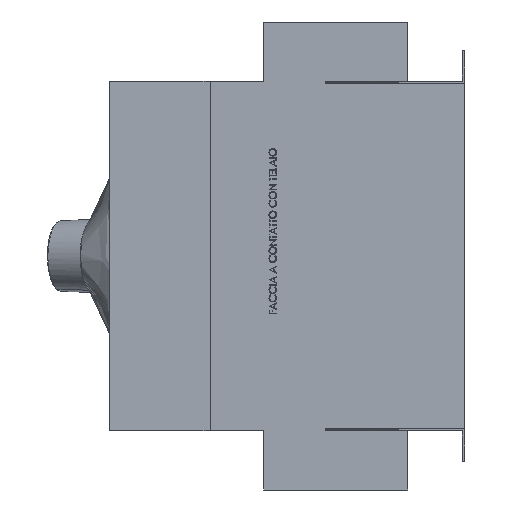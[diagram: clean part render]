
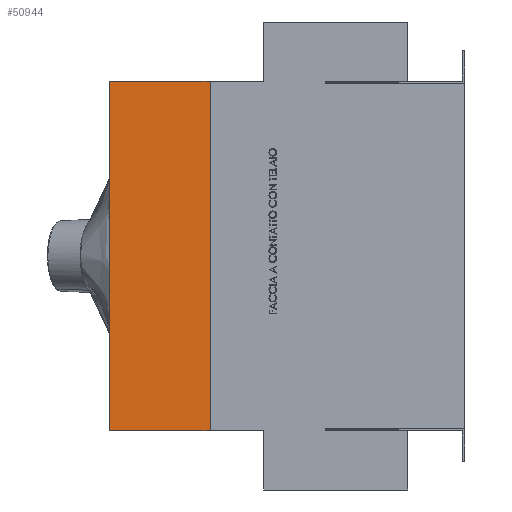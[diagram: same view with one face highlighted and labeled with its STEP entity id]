
A CAD part, left-side view. The second image highlights one B-rep face of the part: STEP entity #50944.
In plain terms, the highlighted planar face has unit normal (-1, 0, 0).
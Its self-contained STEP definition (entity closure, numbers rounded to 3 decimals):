
#1390 = CARTESIAN_POINT ( 'NONE',  ( -120.515, 316.605, 243. ) ) ;
#1688 = LINE ( 'NONE', #21410, #16743 ) ;
#1945 = VECTOR ( 'NONE', #23655, 1000. ) ;
#4144 = DIRECTION ( 'NONE',  ( 0., 1., 0. ) ) ;
#8168 = LINE ( 'NONE', #58612, #57805 ) ;
#10560 = ORIENTED_EDGE ( 'NONE', *, *, #25231, .F. ) ;
#11927 = VERTEX_POINT ( 'NONE', #34171 ) ;
#16743 = VECTOR ( 'NONE', #51020, 1000. ) ;
#17009 = LINE ( 'NONE', #48300, #1945 ) ;
#19096 = PLANE ( 'NONE',  #34509 ) ;
#19318 = CARTESIAN_POINT ( 'NONE',  ( -120.515, 316.605, 937.262 ) ) ;
#21410 = CARTESIAN_POINT ( 'NONE',  ( -120.515, 176.605, 937.262 ) ) ;
#21918 = EDGE_CURVE ( 'NONE', #60916, #52316, #46609, .T. ) ;
#23571 = CARTESIAN_POINT ( 'NONE',  ( -120.515, 316.605, 937.262 ) ) ;
#23655 = DIRECTION ( 'NONE',  ( 0., -1., 0. ) ) ;
#24296 = DIRECTION ( 'NONE',  ( 0., 0., -1. ) ) ;
#24820 = VERTEX_POINT ( 'NONE', #25028 ) ;
#25028 = CARTESIAN_POINT ( 'NONE',  ( -120.515, 176.605, 243. ) ) ;
#25231 = EDGE_CURVE ( 'NONE', #60916, #24820, #17009, .T. ) ;
#30630 = EDGE_LOOP ( 'NONE', ( #10560, #54010, #41825, #42608 ) ) ;
#33406 = VECTOR ( 'NONE', #62974, 1000. ) ;
#34171 = CARTESIAN_POINT ( 'NONE',  ( -120.515, 176.605, -243. ) ) ;
#34509 = AXIS2_PLACEMENT_3D ( 'NONE', #19318, #53879, #24296 ) ;
#37295 = CARTESIAN_POINT ( 'NONE',  ( -120.515, 316.605, -243. ) ) ;
#38777 = EDGE_CURVE ( 'NONE', #11927, #52316, #8168, .T. ) ;
#41825 = ORIENTED_EDGE ( 'NONE', *, *, #38777, .F. ) ;
#42608 = ORIENTED_EDGE ( 'NONE', *, *, #49653, .F. ) ;
#46609 = LINE ( 'NONE', #23571, #33406 ) ;
#48300 = CARTESIAN_POINT ( 'NONE',  ( -120.515, 316.605, 243. ) ) ;
#49653 = EDGE_CURVE ( 'NONE', #24820, #11927, #1688, .T. ) ;
#50944 = ADVANCED_FACE ( 'NONE', ( #62915 ), #19096, .F. ) ;
#51020 = DIRECTION ( 'NONE',  ( 0., 0., -1. ) ) ;
#52316 = VERTEX_POINT ( 'NONE', #37295 ) ;
#53879 = DIRECTION ( 'NONE',  ( 1., 0., 0. ) ) ;
#54010 = ORIENTED_EDGE ( 'NONE', *, *, #21918, .T. ) ;
#57805 = VECTOR ( 'NONE', #4144, 1000. ) ;
#58612 = CARTESIAN_POINT ( 'NONE',  ( -120.515, 316.605, -243. ) ) ;
#60916 = VERTEX_POINT ( 'NONE', #1390 ) ;
#62915 = FACE_OUTER_BOUND ( 'NONE', #30630, .T. ) ;
#62974 = DIRECTION ( 'NONE',  ( 0., 0., -1. ) ) ;
